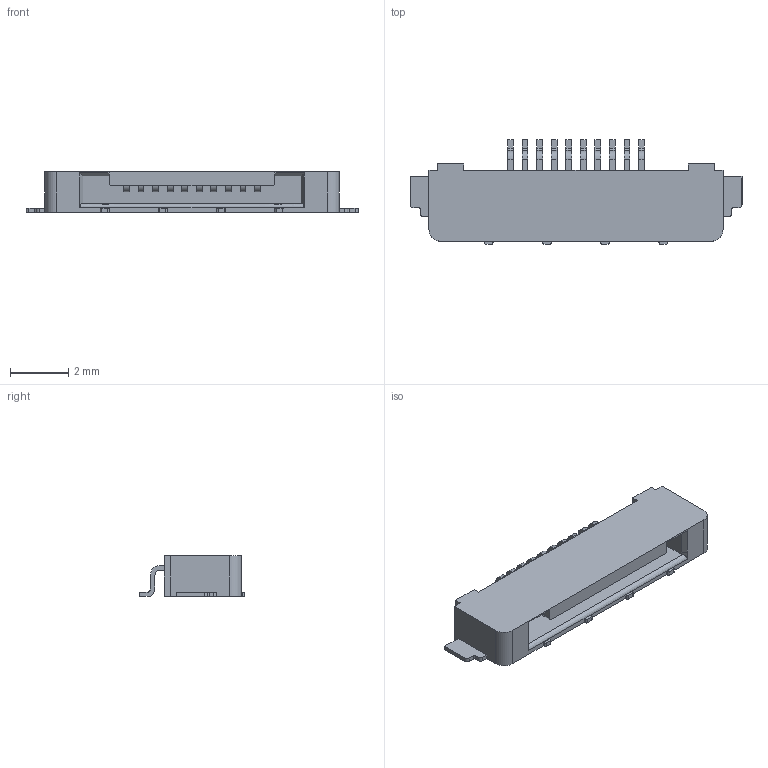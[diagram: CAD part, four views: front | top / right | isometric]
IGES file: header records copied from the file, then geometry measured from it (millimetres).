
Start section: Elysium IGES Interface
Global section: file name: C:\Users\1088\Desktop\SSLxx-xxL3\SSL00-10L3_IG.igs; native system: Creo Elements/Direct Modeling 19.0F  14-Feb-2017; preprocessor: Creo Element/Direct IGES_3D V2.2; author: Unknown; organization: Unknown; date: 20170804.141059; units: millimetre
Bounding box: 11.4 x 3.58 x 1.4 mm (x, y, z)
Volume: 27.4 mm3; surface area: 134 mm2
Topology: 1 solids, 1 shells, 285 faces, 844 edges, 562 vertices
Faces by surface type: bspline 285
